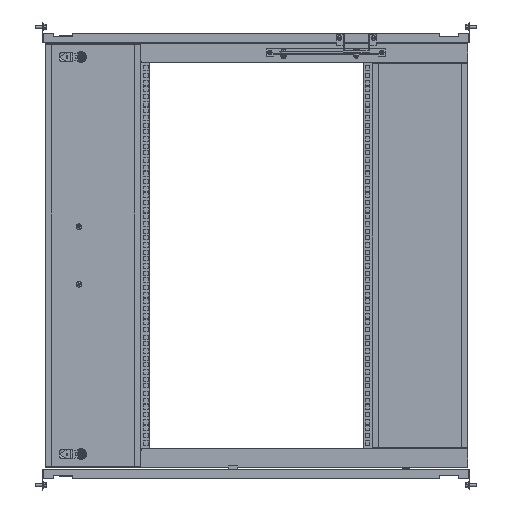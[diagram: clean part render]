
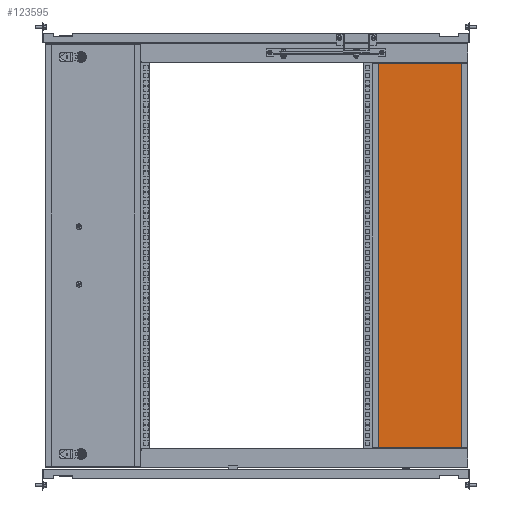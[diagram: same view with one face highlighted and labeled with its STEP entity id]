
A CAD part, top view. The second image highlights one B-rep face of the part: STEP entity #123595.
In plain terms, the highlighted planar face has unit normal (0, 0, 1).
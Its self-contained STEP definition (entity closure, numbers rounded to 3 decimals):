
#123256 = VERTEX_POINT('',#123257);
#123257 = CARTESIAN_POINT('',(-98.5,-402.4,0.));
#123263 = EDGE_CURVE('',#123264,#123256,#123266,.T.);
#123264 = VERTEX_POINT('',#123265);
#123265 = CARTESIAN_POINT('',(-98.5,402.4,0.));
#123266 = LINE('',#123267,#123268);
#123267 = CARTESIAN_POINT('',(-98.5,0.,
    0.));
#123268 = VECTOR('',#123269,1.);
#123269 = DIRECTION('',(0.,-1.,-0.));
#123476 = VERTEX_POINT('',#123477);
#123477 = CARTESIAN_POINT('',(98.5,402.4,0.));
#123483 = EDGE_CURVE('',#123484,#123476,#123486,.T.);
#123484 = VERTEX_POINT('',#123485);
#123485 = CARTESIAN_POINT('',(98.5,-402.4,0.));
#123486 = LINE('',#123487,#123488);
#123487 = CARTESIAN_POINT('',(98.5,0.,0.
    ));
#123488 = VECTOR('',#123489,1.);
#123489 = DIRECTION('',(0.,1.,0.));
#123595 = ADVANCED_FACE('',(#123596),#123676,.T.);
#123596 = FACE_BOUND('',#123597,.T.);
#123597 = EDGE_LOOP('',(#123598,#123608,#123614,#123615,#123623,#123631,
    #123639,#123647,#123653,#123654,#123662,#123670));
#123598 = ORIENTED_EDGE('',*,*,#123599,.F.);
#123599 = EDGE_CURVE('',#123600,#123602,#123604,.T.);
#123600 = VERTEX_POINT('',#123601);
#123601 = CARTESIAN_POINT('',(-97.9,402.4,0.));
#123602 = VERTEX_POINT('',#123603);
#123603 = CARTESIAN_POINT('',(-97.9,403.,0.));
#123604 = LINE('',#123605,#123606);
#123605 = CARTESIAN_POINT('',(-97.9,0.,0.));
#123606 = VECTOR('',#123607,1.);
#123607 = DIRECTION('',(-0.,1.,-0.));
#123608 = ORIENTED_EDGE('',*,*,#123609,.T.);
#123609 = EDGE_CURVE('',#123600,#123264,#123610,.T.);
#123610 = LINE('',#123611,#123612);
#123611 = CARTESIAN_POINT('',(-97.9,402.4,0.));
#123612 = VECTOR('',#123613,1.);
#123613 = DIRECTION('',(-1.,-0.,-0.));
#123614 = ORIENTED_EDGE('',*,*,#123263,.T.);
#123615 = ORIENTED_EDGE('',*,*,#123616,.F.);
#123616 = EDGE_CURVE('',#123617,#123256,#123619,.T.);
#123617 = VERTEX_POINT('',#123618);
#123618 = CARTESIAN_POINT('',(-97.9,-402.4,0.));
#123619 = LINE('',#123620,#123621);
#123620 = CARTESIAN_POINT('',(0.,-402.4,0.));
#123621 = VECTOR('',#123622,1.);
#123622 = DIRECTION('',(-1.,-0.,-0.));
#123623 = ORIENTED_EDGE('',*,*,#123624,.T.);
#123624 = EDGE_CURVE('',#123617,#123625,#123627,.T.);
#123625 = VERTEX_POINT('',#123626);
#123626 = CARTESIAN_POINT('',(-97.9,-403.,0.));
#123627 = LINE('',#123628,#123629);
#123628 = CARTESIAN_POINT('',(-97.9,-402.4,0.));
#123629 = VECTOR('',#123630,1.);
#123630 = DIRECTION('',(-0.,-1.,-0.));
#123631 = ORIENTED_EDGE('',*,*,#123632,.T.);
#123632 = EDGE_CURVE('',#123625,#123633,#123635,.T.);
#123633 = VERTEX_POINT('',#123634);
#123634 = CARTESIAN_POINT('',(97.9,-403.,0.));
#123635 = LINE('',#123636,#123637);
#123636 = CARTESIAN_POINT('',(0.,-403.,0.));
#123637 = VECTOR('',#123638,1.);
#123638 = DIRECTION('',(1.,-0.,-0.));
#123639 = ORIENTED_EDGE('',*,*,#123640,.F.);
#123640 = EDGE_CURVE('',#123641,#123633,#123643,.T.);
#123641 = VERTEX_POINT('',#123642);
#123642 = CARTESIAN_POINT('',(97.9,-402.4,0.));
#123643 = LINE('',#123644,#123645);
#123644 = CARTESIAN_POINT('',(97.9,0.,0.));
#123645 = VECTOR('',#123646,1.);
#123646 = DIRECTION('',(-0.,-1.,-0.));
#123647 = ORIENTED_EDGE('',*,*,#123648,.T.);
#123648 = EDGE_CURVE('',#123641,#123484,#123649,.T.);
#123649 = LINE('',#123650,#123651);
#123650 = CARTESIAN_POINT('',(97.9,-402.4,0.));
#123651 = VECTOR('',#123652,1.);
#123652 = DIRECTION('',(1.,-0.,-0.));
#123653 = ORIENTED_EDGE('',*,*,#123483,.T.);
#123654 = ORIENTED_EDGE('',*,*,#123655,.F.);
#123655 = EDGE_CURVE('',#123656,#123476,#123658,.T.);
#123656 = VERTEX_POINT('',#123657);
#123657 = CARTESIAN_POINT('',(97.9,402.4,0.));
#123658 = LINE('',#123659,#123660);
#123659 = CARTESIAN_POINT('',(0.,402.4,0.));
#123660 = VECTOR('',#123661,1.);
#123661 = DIRECTION('',(1.,-0.,-0.));
#123662 = ORIENTED_EDGE('',*,*,#123663,.T.);
#123663 = EDGE_CURVE('',#123656,#123664,#123666,.T.);
#123664 = VERTEX_POINT('',#123665);
#123665 = CARTESIAN_POINT('',(97.9,403.,0.));
#123666 = LINE('',#123667,#123668);
#123667 = CARTESIAN_POINT('',(97.9,402.4,0.));
#123668 = VECTOR('',#123669,1.);
#123669 = DIRECTION('',(0.,1.,-0.));
#123670 = ORIENTED_EDGE('',*,*,#123671,.F.);
#123671 = EDGE_CURVE('',#123602,#123664,#123672,.T.);
#123672 = LINE('',#123673,#123674);
#123673 = CARTESIAN_POINT('',(0.,403.,0.));
#123674 = VECTOR('',#123675,1.);
#123675 = DIRECTION('',(1.,0.,0.));
#123676 = PLANE('',#123677);
#123677 = AXIS2_PLACEMENT_3D('',#123678,#123679,#123680);
#123678 = CARTESIAN_POINT('',(0.,0.,0.));
#123679 = DIRECTION('',(0.,-0.,1.));
#123680 = DIRECTION('',(1.,0.,0.));
